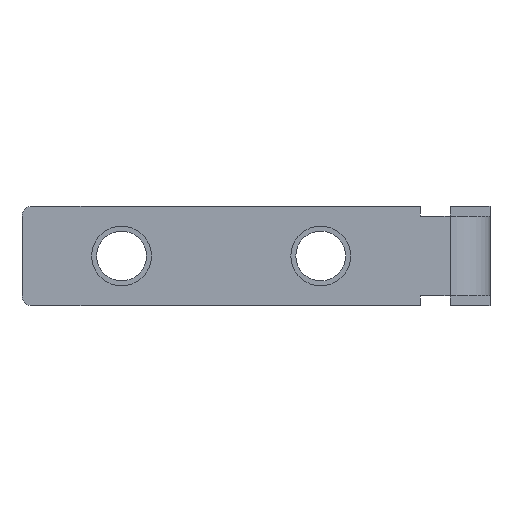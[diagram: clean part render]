
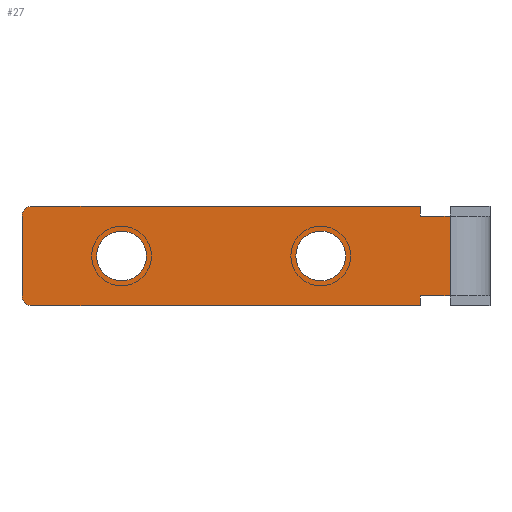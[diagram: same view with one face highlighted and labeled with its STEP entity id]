
A CAD part, left-side view. The second image highlights one B-rep face of the part: STEP entity #27.
In plain terms, the highlighted planar face has unit normal (-1, 0, 0).
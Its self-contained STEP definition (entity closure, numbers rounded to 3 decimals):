
#27 = ADVANCED_FACE ( 'NONE', ( #1165, #1159, #1163 ), #654, .T. ) ;
#92 = AXIS2_PLACEMENT_3D ( 'NONE', #509, #508, #506 ) ;
#105 = AXIS2_PLACEMENT_3D ( 'NONE', #630, #626, #623 ) ;
#106 = AXIS2_PLACEMENT_3D ( 'NONE', #636, #635, #634 ) ;
#107 = AXIS2_PLACEMENT_3D ( 'NONE', #642, #641, #637 ) ;
#108 = AXIS2_PLACEMENT_3D ( 'NONE', #645, #644, #643 ) ;
#110 = AXIS2_PLACEMENT_3D ( 'NONE', #659, #658, #656 ) ;
#112 = AXIS2_PLACEMENT_3D ( 'NONE', #670, #669, #668 ) ;
#119 = AXIS2_PLACEMENT_3D ( 'NONE', #747, #745, #744 ) ;
#156 = AXIS2_PLACEMENT_3D ( 'NONE', #657, #661, #652 ) ;
#196 = EDGE_CURVE ( 'NONE', #1238, #1235, #1087, .T. ) ;
#216 = EDGE_CURVE ( 'NONE', #1222, #1262, #1053, .T. ) ;
#218 = EDGE_CURVE ( 'NONE', #1227, #1231, #1050, .T. ) ;
#228 = EDGE_CURVE ( 'NONE', #1218, #1217, #1031, .T. ) ;
#237 = EDGE_CURVE ( 'NONE', #1216, #1212, #1016, .T. ) ;
#240 = EDGE_CURVE ( 'NONE', #1258, #1215, #1013, .T. ) ;
#243 = EDGE_CURVE ( 'NONE', #1262, #1206, #1019, .T. ) ;
#244 = EDGE_CURVE ( 'NONE', #1206, #1222, #1006, .T. ) ;
#245 = EDGE_CURVE ( 'NONE', #1270, #1264, #1005, .T. ) ;
#246 = EDGE_CURVE ( 'NONE', #1264, #1288, #1007, .T. ) ;
#249 = EDGE_CURVE ( 'NONE', #1258, #1235, #1001, .T. ) ;
#250 = EDGE_CURVE ( 'NONE', #1216, #1215, #999, .T. ) ;
#251 = EDGE_CURVE ( 'NONE', #1212, #1218, #997, .T. ) ;
#252 = EDGE_CURVE ( 'NONE', #1217, #1227, #995, .T. ) ;
#253 = EDGE_CURVE ( 'NONE', #1238, #1231, #993, .T. ) ;
#277 = EDGE_CURVE ( 'NONE', #1288, #1270, #953, .T. ) ;
#335 = CARTESIAN_POINT ( 'NONE',  ( 0., 39.5, 0. ) ) ;
#356 = CARTESIAN_POINT ( 'NONE',  ( 0., 37., 2.5 ) ) ;
#366 = CARTESIAN_POINT ( 'NONE',  ( 0., 34.5, 0. ) ) ;
#368 = CARTESIAN_POINT ( 'NONE',  ( 0., 17., 2.5 ) ) ;
#372 = CARTESIAN_POINT ( 'NONE',  ( 0., 46., 5. ) ) ;
#396 = CARTESIAN_POINT ( 'NONE',  ( 0., 7., 4. ) ) ;
#399 = CARTESIAN_POINT ( 'NONE',  ( 0., 7., 5. ) ) ;
#404 = CARTESIAN_POINT ( 'NONE',  ( 0., 4., 4. ) ) ;
#408 = CARTESIAN_POINT ( 'NONE',  ( 0., 4., -4. ) ) ;
#414 = CARTESIAN_POINT ( 'NONE',  ( 0., 19.5, 0. ) ) ;
#418 = CARTESIAN_POINT ( 'NONE',  ( 0., 7., -5. ) ) ;
#419 = CARTESIAN_POINT ( 'NONE',  ( 0., 7., -4. ) ) ;
#420 = CARTESIAN_POINT ( 'NONE',  ( 0., 47., -4. ) ) ;
#421 = CARTESIAN_POINT ( 'NONE',  ( 0., 47., 4. ) ) ;
#423 = CARTESIAN_POINT ( 'NONE',  ( 0., 46., -5. ) ) ;
#430 = CARTESIAN_POINT ( 'NONE',  ( 0., 14.5, 0. ) ) ;
#506 = DIRECTION ( 'NONE',  ( 0., 0., 1. ) ) ;
#508 = DIRECTION ( 'NONE',  ( 1., 0., 0. ) ) ;
#509 = CARTESIAN_POINT ( 'NONE',  ( 0., 37., 0. ) ) ;
#601 = DIRECTION ( 'NONE',  ( 0., -1., 0. ) ) ;
#603 = CARTESIAN_POINT ( 'NONE',  ( 0., 0., 4. ) ) ;
#604 = DIRECTION ( 'NONE',  ( 0., -1., 0. ) ) ;
#607 = CARTESIAN_POINT ( 'NONE',  ( 0., 0., -4. ) ) ;
#608 = DIRECTION ( 'NONE',  ( 0., -1., 0. ) ) ;
#609 = CARTESIAN_POINT ( 'NONE',  ( 0., 0., -5. ) ) ;
#611 = DIRECTION ( 'NONE',  ( 0., 0., 1. ) ) ;
#612 = CARTESIAN_POINT ( 'NONE',  ( 0., 47., -5. ) ) ;
#613 = DIRECTION ( 'NONE',  ( 0., -1., 0. ) ) ;
#614 = CARTESIAN_POINT ( 'NONE',  ( 0., 0., 5. ) ) ;
#623 = DIRECTION ( 'NONE',  ( 0., 0., 1. ) ) ;
#626 = DIRECTION ( 'NONE',  ( 1., 0., 0. ) ) ;
#630 = CARTESIAN_POINT ( 'NONE',  ( 0., 37., 0. ) ) ;
#634 = DIRECTION ( 'NONE',  ( 0., 0., 1. ) ) ;
#635 = DIRECTION ( 'NONE',  ( 1., 0., 0. ) ) ;
#636 = CARTESIAN_POINT ( 'NONE',  ( 0., 37., 0. ) ) ;
#637 = DIRECTION ( 'NONE',  ( 0., 0., 1. ) ) ;
#641 = DIRECTION ( 'NONE',  ( 1., 0., 0. ) ) ;
#642 = CARTESIAN_POINT ( 'NONE',  ( 0., 17., 0. ) ) ;
#643 = DIRECTION ( 'NONE',  ( 0., 0., 1. ) ) ;
#644 = DIRECTION ( 'NONE',  ( 1., 0., 0. ) ) ;
#645 = CARTESIAN_POINT ( 'NONE',  ( 0., 17., 0. ) ) ;
#652 = DIRECTION ( 'NONE',  ( 0., 0., 1. ) ) ;
#654 = PLANE ( 'NONE',  #156 ) ;
#656 = DIRECTION ( 'NONE',  ( 0., 0., 1. ) ) ;
#657 = CARTESIAN_POINT ( 'NONE',  ( 0., 47., -5. ) ) ;
#658 = DIRECTION ( 'NONE',  ( -1., 0., 0. ) ) ;
#659 = CARTESIAN_POINT ( 'NONE',  ( 0., 46., 4. ) ) ;
#661 = DIRECTION ( 'NONE',  ( -1., 0., 0. ) ) ;
#668 = DIRECTION ( 'NONE',  ( 0., 0., -1. ) ) ;
#669 = DIRECTION ( 'NONE',  ( -1., 0., 0. ) ) ;
#670 = CARTESIAN_POINT ( 'NONE',  ( 0., 46., -4. ) ) ;
#704 = DIRECTION ( 'NONE',  ( 0., 0., 1. ) ) ;
#707 = CARTESIAN_POINT ( 'NONE',  ( 0., 7., -5. ) ) ;
#740 = DIRECTION ( 'NONE',  ( 0., 0., 1. ) ) ;
#743 = CARTESIAN_POINT ( 'NONE',  ( 0., 4., -5. ) ) ;
#744 = DIRECTION ( 'NONE',  ( 0., 0., 1. ) ) ;
#745 = DIRECTION ( 'NONE',  ( 1., 0., 0. ) ) ;
#747 = CARTESIAN_POINT ( 'NONE',  ( 0., 17., 0. ) ) ;
#845 = DIRECTION ( 'NONE',  ( 0., 0., 1. ) ) ;
#853 = CARTESIAN_POINT ( 'NONE',  ( 0., 7., -5. ) ) ;
#953 = CIRCLE ( 'NONE', #92, 2.5 ) ;
#990 = VECTOR ( 'NONE', #601, 1000. ) ;
#992 = VECTOR ( 'NONE', #604, 1000. ) ;
#993 = LINE ( 'NONE', #603, #990 ) ;
#994 = VECTOR ( 'NONE', #608, 1000. ) ;
#995 = LINE ( 'NONE', #607, #992 ) ;
#996 = VECTOR ( 'NONE', #611, 1000. ) ;
#997 = LINE ( 'NONE', #609, #994 ) ;
#998 = VECTOR ( 'NONE', #613, 1000. ) ;
#999 = LINE ( 'NONE', #612, #996 ) ;
#1001 = LINE ( 'NONE', #614, #998 ) ;
#1005 = CIRCLE ( 'NONE', #106, 2.5 ) ;
#1006 = CIRCLE ( 'NONE', #107, 2.5 ) ;
#1007 = CIRCLE ( 'NONE', #105, 2.5 ) ;
#1013 = CIRCLE ( 'NONE', #110, 1. ) ;
#1016 = CIRCLE ( 'NONE', #112, 1. ) ;
#1019 = CIRCLE ( 'NONE', #108, 2.5 ) ;
#1028 = VECTOR ( 'NONE', #704, 1000. ) ;
#1031 = LINE ( 'NONE', #707, #1028 ) ;
#1047 = VECTOR ( 'NONE', #740, 1000. ) ;
#1050 = LINE ( 'NONE', #743, #1047 ) ;
#1053 = CIRCLE ( 'NONE', #119, 2.5 ) ;
#1082 = VECTOR ( 'NONE', #845, 1000. ) ;
#1087 = LINE ( 'NONE', #853, #1082 ) ;
#1159 = FACE_BOUND ( 'NONE', #1319, .T. ) ;
#1163 = FACE_OUTER_BOUND ( 'NONE', #1318, .T. ) ;
#1165 = FACE_BOUND ( 'NONE', #1316, .T. ) ;
#1206 = VERTEX_POINT ( 'NONE', #430 ) ;
#1212 = VERTEX_POINT ( 'NONE', #423 ) ;
#1215 = VERTEX_POINT ( 'NONE', #421 ) ;
#1216 = VERTEX_POINT ( 'NONE', #420 ) ;
#1217 = VERTEX_POINT ( 'NONE', #419 ) ;
#1218 = VERTEX_POINT ( 'NONE', #418 ) ;
#1222 = VERTEX_POINT ( 'NONE', #414 ) ;
#1227 = VERTEX_POINT ( 'NONE', #408 ) ;
#1231 = VERTEX_POINT ( 'NONE', #404 ) ;
#1235 = VERTEX_POINT ( 'NONE', #399 ) ;
#1238 = VERTEX_POINT ( 'NONE', #396 ) ;
#1258 = VERTEX_POINT ( 'NONE', #372 ) ;
#1262 = VERTEX_POINT ( 'NONE', #368 ) ;
#1264 = VERTEX_POINT ( 'NONE', #366 ) ;
#1270 = VERTEX_POINT ( 'NONE', #356 ) ;
#1288 = VERTEX_POINT ( 'NONE', #335 ) ;
#1316 = EDGE_LOOP ( 'NONE', ( #1440, #1441, #1442 ) ) ;
#1318 = EDGE_LOOP ( 'NONE', ( #1447, #1448, #1450, #1451, #1452, #1453, #1454, #1455, #1456, #1457 ) ) ;
#1319 = EDGE_LOOP ( 'NONE', ( #1443, #1444, #1445 ) ) ;
#1440 = ORIENTED_EDGE ( 'NONE', *, *, #216, .T. ) ;
#1441 = ORIENTED_EDGE ( 'NONE', *, *, #243, .T. ) ;
#1442 = ORIENTED_EDGE ( 'NONE', *, *, #244, .T. ) ;
#1443 = ORIENTED_EDGE ( 'NONE', *, *, #277, .T. ) ;
#1444 = ORIENTED_EDGE ( 'NONE', *, *, #245, .T. ) ;
#1445 = ORIENTED_EDGE ( 'NONE', *, *, #246, .T. ) ;
#1447 = ORIENTED_EDGE ( 'NONE', *, *, #249, .F. ) ;
#1448 = ORIENTED_EDGE ( 'NONE', *, *, #240, .T. ) ;
#1450 = ORIENTED_EDGE ( 'NONE', *, *, #250, .F. ) ;
#1451 = ORIENTED_EDGE ( 'NONE', *, *, #237, .T. ) ;
#1452 = ORIENTED_EDGE ( 'NONE', *, *, #251, .T. ) ;
#1453 = ORIENTED_EDGE ( 'NONE', *, *, #228, .T. ) ;
#1454 = ORIENTED_EDGE ( 'NONE', *, *, #252, .T. ) ;
#1455 = ORIENTED_EDGE ( 'NONE', *, *, #218, .T. ) ;
#1456 = ORIENTED_EDGE ( 'NONE', *, *, #253, .F. ) ;
#1457 = ORIENTED_EDGE ( 'NONE', *, *, #196, .T. ) ;
